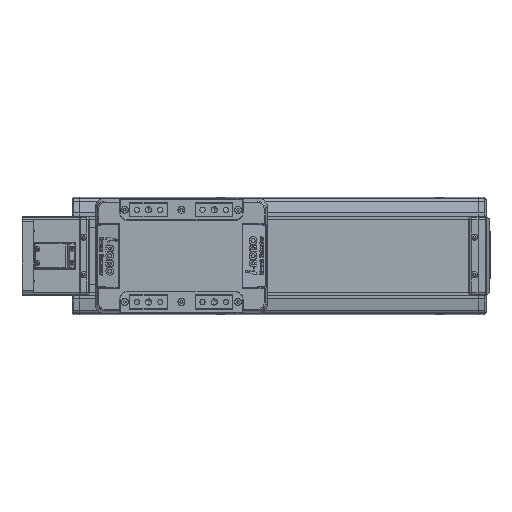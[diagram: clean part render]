
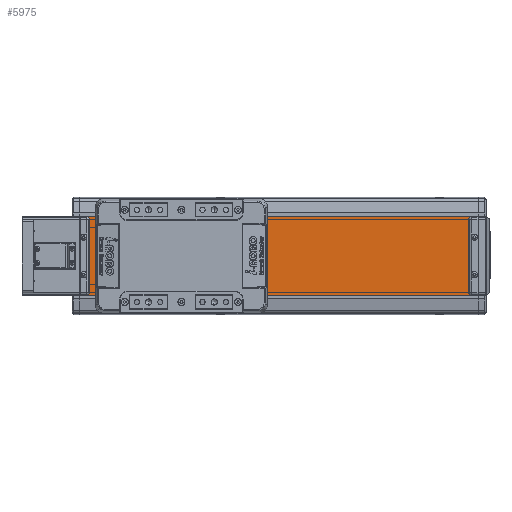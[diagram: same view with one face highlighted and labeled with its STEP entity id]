
A CAD part, top view. The second image highlights one B-rep face of the part: STEP entity #5975.
In plain terms, the highlighted planar face has unit normal (0, 0, 1).
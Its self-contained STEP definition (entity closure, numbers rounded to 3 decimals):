
#5975=ADVANCED_FACE('',(#13295),#13296,.F.);
#13295=FACE_OUTER_BOUND('',#23153,.T.);
#13296=PLANE('',#23154);
#23153=EDGE_LOOP('',(#40493,#40494,#40495,#40496));
#23154=AXIS2_PLACEMENT_3D('',#40497,#40498,#40499);
#40493=ORIENTED_EDGE('',*,*,#60466,.F.);
#40494=ORIENTED_EDGE('',*,*,#59819,.F.);
#40495=ORIENTED_EDGE('',*,*,#60467,.F.);
#40496=ORIENTED_EDGE('',*,*,#60468,.T.);
#40497=CARTESIAN_POINT('',(0.,0.,26.));
#40498=DIRECTION('',(0.,0.,-1.0));
#40499=DIRECTION('',(0.,1.0,0.));
#59819=EDGE_CURVE('',#73394,#73392,#73396,.T.);
#60466=EDGE_CURVE('',#73392,#74297,#74298,.T.);
#60467=EDGE_CURVE('',#74299,#73394,#74300,.T.);
#60468=EDGE_CURVE('',#74299,#74297,#74301,.T.);
#73392=VERTEX_POINT('',#91383);
#73394=VERTEX_POINT('',#91386);
#73396=LINE('',#91389,#91390);
#74297=VERTEX_POINT('',#92706);
#74298=LINE('',#92707,#92708);
#74299=VERTEX_POINT('',#92709);
#74300=LINE('',#92710,#92711);
#74301=LINE('',#92712,#92713);
#91383=CARTESIAN_POINT('',(510.0,50.,26.));
#91386=CARTESIAN_POINT('',(0.,50.,26.));
#91389=CARTESIAN_POINT('',(0.,50.,26.));
#91390=VECTOR('',#107121,10.0);
#92706=CARTESIAN_POINT('',(510.0,-50.,26.));
#92707=CARTESIAN_POINT('',(510.0,-50.,26.));
#92708=VECTOR('',#108017,10.0);
#92709=CARTESIAN_POINT('',(0.,-50.,26.));
#92710=CARTESIAN_POINT('',(0.,-50.,26.));
#92711=VECTOR('',#108018,10.0);
#92712=CARTESIAN_POINT('',(0.,-50.,26.));
#92713=VECTOR('',#108019,10.0);
#107121=DIRECTION('',(1.0,0.,0.));
#108017=DIRECTION('',(0.,-1.0,0.));
#108018=DIRECTION('',(0.,1.0,0.));
#108019=DIRECTION('',(1.0,0.,0.));
